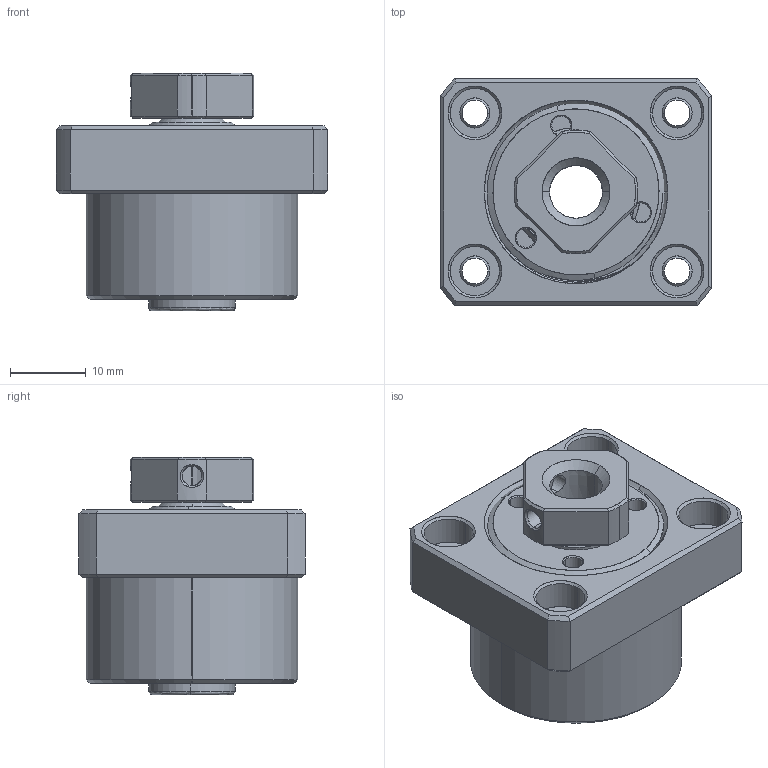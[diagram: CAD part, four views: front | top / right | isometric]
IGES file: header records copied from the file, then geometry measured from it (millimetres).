
Start section: SolidWorks IGES file using analytic representation for surfaces
Bounding box: 36 x 30 x 31.5 mm (x, y, z)
Surface area: 7378.1 mm2 (no closed solid volume)
Topology: 0 solids, 0 shells, 169 faces, 2080 edges, 2080 vertices
Faces by surface type: revolution 113, bspline 56
